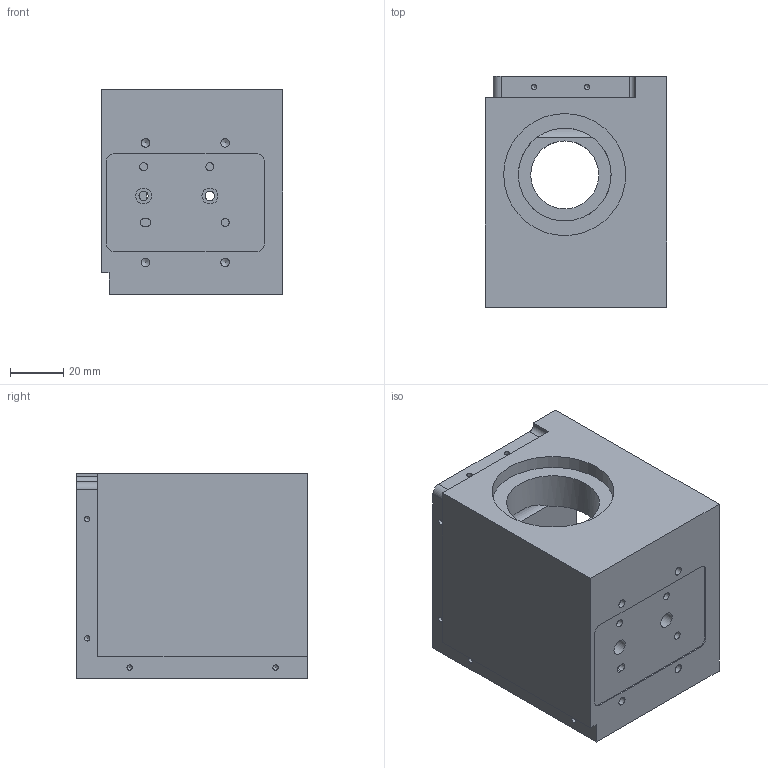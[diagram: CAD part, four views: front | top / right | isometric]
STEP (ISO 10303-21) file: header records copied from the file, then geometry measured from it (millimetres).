
FILE_DESCRIPTION(/* description */ (''),/* implementation_level */ '2;1');
FILE_NAME(/* name */ 'C:\Users\strothej\Documents\ActualDocuments\MicroscopeParts\TwoPhotonSystem\ScanningMechanics\v32\Drawings\Collection_Filter_Mount.stp',/* time_stamp */ '2017-07-25T18:15:41-07:00',/* author */ ('strothej'),/* organization */ (''),/* preprocessor_version */ 'ST-DEVELOPER v16.1',/* originating_system */ 'Autodesk Inventor 2016',/* authorisation */ '');
FILE_SCHEMA (('AUTOMOTIVE_DESIGN { 1 0 10303 214 3 1 1 }'));
Length unit declared in the file: millimetre
Products named in the file (1): Collection_Filter_Mount
Bounding box: 68.5 x 87 x 77 mm (x, y, z)
Volume: 243859.7 mm3; surface area: 52775.2 mm2
Topology: 1 solids, 1 shells, 134 faces, 339 edges, 218 vertices
Faces by surface type: cylinder 63, plane 45, cone 26
Full cylindrical faces by diameter (mm): 2.013 x6, 2.459 x12, 3 x9, 3.242 x4, 3.5 x2, 6 x2, 25.603 x2, 35 x1, 46 x1
Entity records: 3519 total; most frequent: DIRECTION 640, CARTESIAN_POINT 587, ORIENTED_EDGE 490, AXIS2_PLACEMENT_3D 261, EDGE_CURVE 245, EDGE_LOOP 224, VERTEX_POINT 189, FACE_OUTER_BOUND 134
